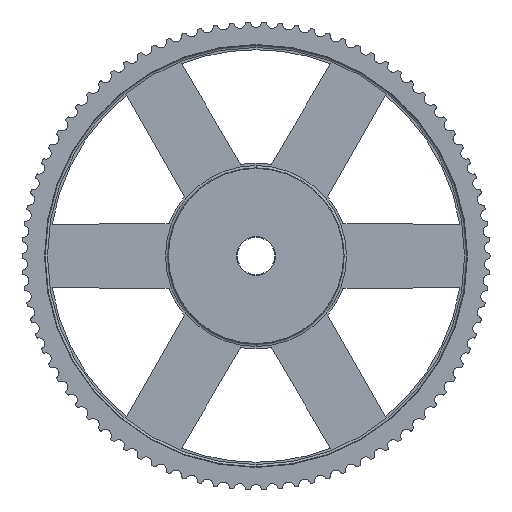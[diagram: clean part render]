
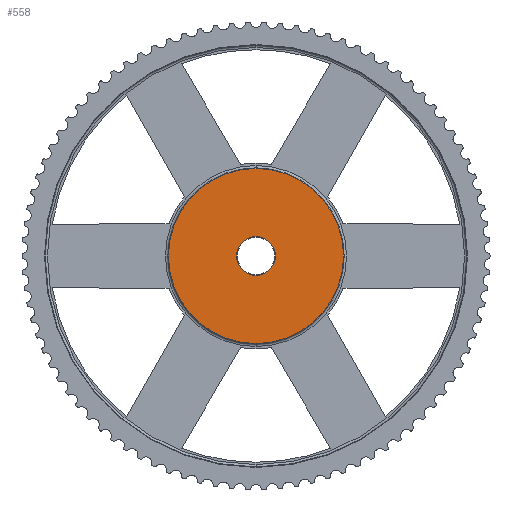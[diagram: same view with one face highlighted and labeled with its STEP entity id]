
A CAD part, left-side view. The second image highlights one B-rep face of the part: STEP entity #558.
In plain terms, the highlighted planar face has unit normal (-1, 0, 0).
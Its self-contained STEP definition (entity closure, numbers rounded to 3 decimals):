
#558=ADVANCED_FACE('',(#1601,#1602),#1603,.T.);
#1601=FACE_BOUND('',#2647,.T.);
#1602=FACE_OUTER_BOUND('',#2648,.T.);
#1603=PLANE('',#2649);
#2647=EDGE_LOOP('',(#7205,#7206));
#2648=EDGE_LOOP('',(#7207,#7208));
#2649=AXIS2_PLACEMENT_3D('',#7209,#7210,#7211);
#7205=ORIENTED_EDGE('',*,*,#7290,.T.);
#7206=ORIENTED_EDGE('',*,*,#7296,.T.);
#7207=ORIENTED_EDGE('',*,*,#8728,.T.);
#7208=ORIENTED_EDGE('',*,*,#7229,.T.);
#7209=CARTESIAN_POINT('',(0.0,0.0,0.0));
#7210=DIRECTION('',(-1.0,0.0,0.0));
#7211=DIRECTION('',(0.0,0.0,1.0));
#7229=EDGE_CURVE('',#8751,#8748,#8752,.T.);
#7290=EDGE_CURVE('',#8860,#8862,#8864,.T.);
#7296=EDGE_CURVE('',#8862,#8860,#8872,.T.);
#8728=EDGE_CURVE('',#8748,#8751,#11244,.T.);
#8748=VERTEX_POINT('',#11268);
#8751=VERTEX_POINT('',#11272);
#8752=CIRCLE('',#11273,74.5);
#8860=VERTEX_POINT('',#11402);
#8862=VERTEX_POINT('',#11405);
#8864=CIRCLE('',#11408,16.5);
#8872=CIRCLE('',#11418,16.5);
#11244=CIRCLE('',#14284,74.5);
#11268=CARTESIAN_POINT('',(0.0,74.5,0.0));
#11272=CARTESIAN_POINT('',(0.0,-74.5,0.));
#11273=AXIS2_PLACEMENT_3D('',#14307,#14308,#14309);
#11402=CARTESIAN_POINT('',(0.0,16.5,0.0));
#11405=CARTESIAN_POINT('',(0.0,-16.5,0.));
#11408=AXIS2_PLACEMENT_3D('',#14444,#14445,#14446);
#11418=AXIS2_PLACEMENT_3D('',#14458,#14459,#14460);
#14284=AXIS2_PLACEMENT_3D('',#17766,#17767,#17768);
#14307=CARTESIAN_POINT('',(0.0,0.0,0.));
#14308=DIRECTION('',(-1.0,0.0,0.0));
#14309=DIRECTION('',(0.0,1.0,0.0));
#14444=CARTESIAN_POINT('',(0.0,0.0,0.0));
#14445=DIRECTION('',(1.0,0.0,0.0));
#14446=DIRECTION('',(0.0,1.0,0.0));
#14458=CARTESIAN_POINT('',(0.0,0.0,0.0));
#14459=DIRECTION('',(1.0,0.0,0.0));
#14460=DIRECTION('',(0.0,1.0,0.0));
#17766=CARTESIAN_POINT('',(0.0,0.0,0.));
#17767=DIRECTION('',(-1.0,0.0,0.0));
#17768=DIRECTION('',(0.0,1.0,0.0));
